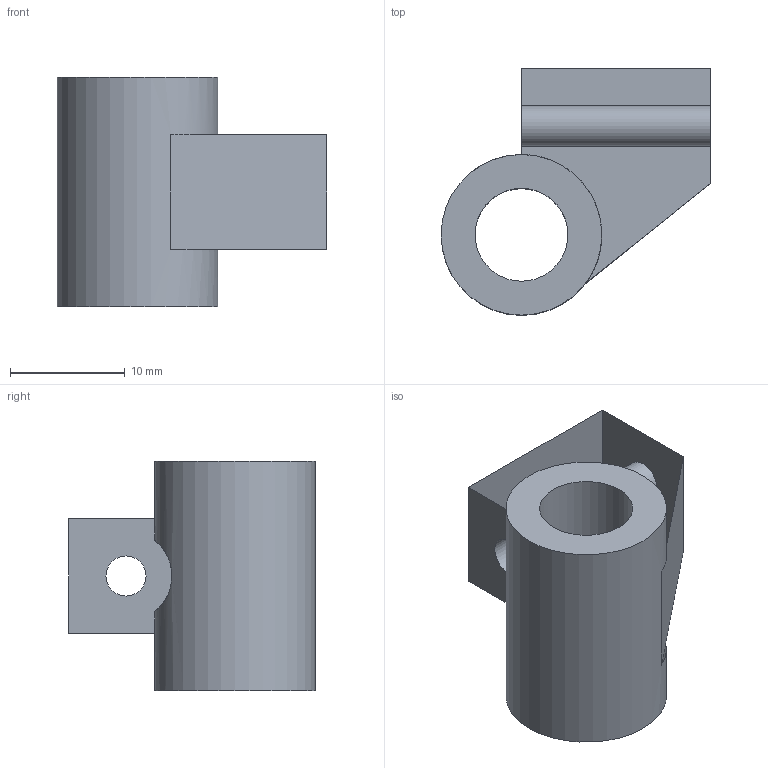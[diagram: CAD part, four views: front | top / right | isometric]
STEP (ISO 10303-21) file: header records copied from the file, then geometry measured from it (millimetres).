
FILE_DESCRIPTION(/* description */ (''),/* implementation_level */ '2;1');
FILE_NAME(/* name */ 'D:\3D печать\Мои проекты\Archy MK 2\STEP\MK3\крепление датчика филамента 2.stp',/* time_stamp */ '2019-08-16T22:58:34+06:00',/* author */ ('Пользователь'),/* organization */ (''),/* preprocessor_version */ 'ST-DEVELOPER v16.5',/* originating_system */ 'Autodesk Inventor 2017',/* authorisation */ '');
FILE_SCHEMA (('AUTOMOTIVE_DESIGN { 1 0 10303 214 3 1 1 }'));
Length unit declared in the file: millimetre
Products named in the file (1): крепление \X2\04340430
044204470438043A0430\X0\ филамента 
2
Bounding box: 23.5 x 21.5 x 20 mm (x, y, z)
Volume: 3819.4 mm3; surface area: 2476.8 mm2
Topology: 1 solids, 1 shells, 13 faces, 35 edges, 24 vertices
Faces by surface type: plane 9, cylinder 4
Full cylindrical faces by diameter (mm): 3.5 x1, 8.1 x1, 14 x1
Entity records: 409 total; most frequent: CARTESIAN_POINT 82, DIRECTION 63, ORIENTED_EDGE 54, EDGE_CURVE 27, AXIS2_PLACEMENT_3D 23, EDGE_LOOP 21, VERTEX_POINT 20, LINE 17
